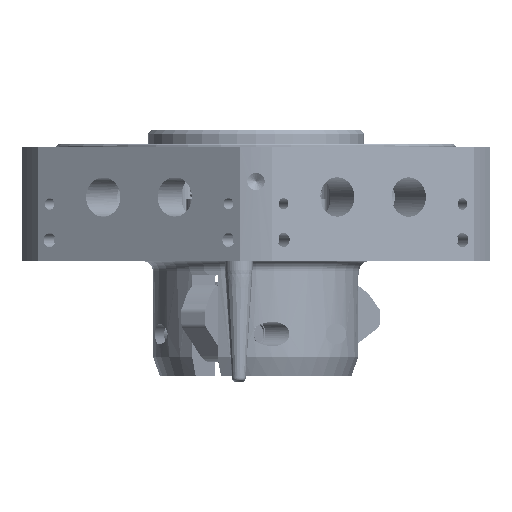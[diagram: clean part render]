
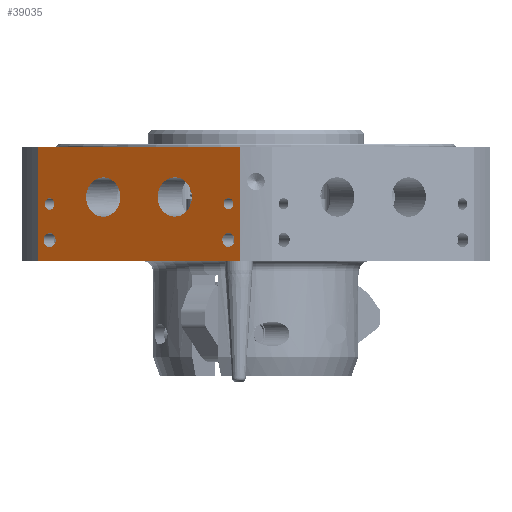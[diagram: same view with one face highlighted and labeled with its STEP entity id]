
A CAD part, top view. The second image highlights one B-rep face of the part: STEP entity #39035.
In plain terms, the highlighted planar face has unit normal (-0.5, 0, 0.866).
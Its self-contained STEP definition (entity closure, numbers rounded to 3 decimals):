
#335 = EDGE_LOOP ( 'NONE', ( #1082 ) ) ;
#589 = CARTESIAN_POINT ( 'NONE',  ( -59.981, 16.5, 43.89 ) ) ;
#986 = EDGE_CURVE ( 'NONE', #29392, #5384, #41622, .T. ) ;
#1082 = ORIENTED_EDGE ( 'NONE', *, *, #51510, .F. ) ;
#1117 = ORIENTED_EDGE ( 'NONE', *, *, #986, .T. ) ;
#1144 = FACE_BOUND ( 'NONE', #41600, .T. ) ;
#1641 = ORIENTED_EDGE ( 'NONE', *, *, #17149, .F. ) ;
#1983 = CARTESIAN_POINT ( 'NONE',  ( -6.26, 6., 74.905 ) ) ;
#2300 = AXIS2_PLACEMENT_3D ( 'NONE', #589, #16958, #33367 ) ;
#2595 = CARTESIAN_POINT ( 'NONE',  ( -58.222, 6., 44.905 ) ) ;
#2855 = EDGE_CURVE ( 'NONE', #5384, #31453, #30086, .T. ) ;
#3096 = CARTESIAN_POINT ( 'NONE',  ( -58.552, 16.5, 44.715 ) ) ;
#3681 = DIRECTION ( 'NONE',  ( -0.5, 0., 0.866 ) ) ;
#3937 = AXIS2_PLACEMENT_3D ( 'NONE', #27132, #43527, #6738 ) ;
#4257 = CARTESIAN_POINT ( 'NONE',  ( -4.606, 33., 75.86 ) ) ;
#4647 = LINE ( 'NONE', #21015, #37635 ) ;
#4818 = CARTESIAN_POINT ( 'NONE',  ( -63.394, 33., 41.919 ) ) ;
#4908 = CARTESIAN_POINT ( 'NONE',  ( -63.394, 0., 41.919 ) ) ;
#5384 = VERTEX_POINT ( 'NONE', #4908 ) ;
#5461 = ORIENTED_EDGE ( 'NONE', *, *, #14284, .F. ) ;
#6099 = VERTEX_POINT ( 'NONE', #22464 ) ;
#6738 = DIRECTION ( 'NONE',  ( 0.866, 0., 0.5 ) ) ;
#7305 = ORIENTED_EDGE ( 'NONE', *, *, #15519, .F. ) ;
#7329 = DIRECTION ( 'NONE',  ( -0.5, 0., 0.866 ) ) ;
#7390 = CARTESIAN_POINT ( 'NONE',  ( -18.652, 18.5, 67.751 ) ) ;
#9505 = CARTESIAN_POINT ( 'NONE',  ( -4.606, 33., 75.86 ) ) ;
#9675 = DIRECTION ( 'NONE',  ( 0.866, 0., 0.5 ) ) ;
#10309 = CARTESIAN_POINT ( 'NONE',  ( -4.606, 0., 75.86 ) ) ;
#10938 = CIRCLE ( 'NONE', #40965, 2.031 ) ;
#11085 = AXIS2_PLACEMENT_3D ( 'NONE', #53015, #16148, #32562 ) ;
#13237 = EDGE_LOOP ( 'NONE', ( #18002 ) ) ;
#13275 = CARTESIAN_POINT ( 'NONE',  ( -6.59, 16.5, 74.715 ) ) ;
#13504 = VECTOR ( 'NONE', #21198, 1000. ) ;
#13510 = FACE_BOUND ( 'NONE', #335, .T. ) ;
#13887 = EDGE_CURVE ( 'NONE', #20613, #31453, #4647, .T. ) ;
#14284 = EDGE_CURVE ( 'NONE', #6099, #6099, #34238, .T. ) ;
#15202 = CARTESIAN_POINT ( 'NONE',  ( -63.394, 33., 41.919 ) ) ;
#15519 = EDGE_CURVE ( 'NONE', #39392, #39392, #50305, .T. ) ;
#16148 = DIRECTION ( 'NONE',  ( -0.5, 0., 0.866 ) ) ;
#16682 = EDGE_CURVE ( 'NONE', #39901, #39901, #25470, .T. ) ;
#16827 = CARTESIAN_POINT ( 'NONE',  ( -23.608, 18.5, 64.89 ) ) ;
#16958 = DIRECTION ( 'NONE',  ( -0.5, 0., 0.866 ) ) ;
#17149 = EDGE_CURVE ( 'NONE', #44209, #44209, #35764, .T. ) ;
#17517 = FACE_BOUND ( 'NONE', #29502, .T. ) ;
#18002 = ORIENTED_EDGE ( 'NONE', *, *, #49817, .F. ) ;
#18668 = CIRCLE ( 'NONE', #48740, 1.65 ) ;
#19454 = AXIS2_PLACEMENT_3D ( 'NONE', #16827, #33230, #49662 ) ;
#20049 = DIRECTION ( 'NONE',  ( 0.866, 0., 0.5 ) ) ;
#20613 = VERTEX_POINT ( 'NONE', #47586 ) ;
#20628 = DIRECTION ( 'NONE',  ( 0.866, 0., 0.5 ) ) ;
#21015 = CARTESIAN_POINT ( 'NONE',  ( -4.606, 33., 75.86 ) ) ;
#21198 = DIRECTION ( 'NONE',  ( 0., -1., 0. ) ) ;
#22464 = CARTESIAN_POINT ( 'NONE',  ( -39.436, 18.5, 55.751 ) ) ;
#22651 = AXIS2_PLACEMENT_3D ( 'NONE', #9505, #25876, #42255 ) ;
#23714 = DIRECTION ( 'NONE',  ( 0.866, 0., 0.5 ) ) ;
#25470 = CIRCLE ( 'NONE', #2300, 1.65 ) ;
#25876 = DIRECTION ( 'NONE',  ( 0.5, 0., -0.866 ) ) ;
#27132 = CARTESIAN_POINT ( 'NONE',  ( -59.981, 6., 43.89 ) ) ;
#29392 = VERTEX_POINT ( 'NONE', #15202 ) ;
#29502 = EDGE_LOOP ( 'NONE', ( #33026 ) ) ;
#29895 = FACE_OUTER_BOUND ( 'NONE', #38093, .T. ) ;
#30086 = LINE ( 'NONE', #46496, #52261 ) ;
#30757 = VECTOR ( 'NONE', #20628, 1000. ) ;
#31304 = ORIENTED_EDGE ( 'NONE', *, *, #52897, .F. ) ;
#31453 = VERTEX_POINT ( 'NONE', #10309 ) ;
#32562 = DIRECTION ( 'NONE',  ( 0.866, 0., 0.5 ) ) ;
#33026 = ORIENTED_EDGE ( 'NONE', *, *, #16682, .F. ) ;
#33230 = DIRECTION ( 'NONE',  ( -0.5, 0., 0.866 ) ) ;
#33367 = DIRECTION ( 'NONE',  ( 0.866, 0., 0.5 ) ) ;
#33917 = FACE_BOUND ( 'NONE', #13237, .T. ) ;
#34238 = CIRCLE ( 'NONE', #11085, 5.723 ) ;
#35764 = CIRCLE ( 'NONE', #19454, 5.722 ) ;
#37408 = DIRECTION ( 'NONE',  ( 0., -1., 0. ) ) ;
#37635 = VECTOR ( 'NONE', #37408, 1000. ) ;
#37953 = FACE_BOUND ( 'NONE', #41264, .T. ) ;
#38093 = EDGE_LOOP ( 'NONE', ( #47078, #41464, #31304, #1117 ) ) ;
#38800 = VERTEX_POINT ( 'NONE', #1983 ) ;
#39035 = ADVANCED_FACE ( 'NONE', ( #37953, #1144, #17517, #33917, #50350, #13510, #29895 ), #46322, .F. ) ;
#39392 = VERTEX_POINT ( 'NONE', #2595 ) ;
#39901 = VERTEX_POINT ( 'NONE', #3096 ) ;
#40507 = CARTESIAN_POINT ( 'NONE',  ( -8.019, 16.5, 73.89 ) ) ;
#40965 = AXIS2_PLACEMENT_3D ( 'NONE', #44146, #7329, #23714 ) ;
#41063 = LINE ( 'NONE', #4257, #30757 ) ;
#41264 = EDGE_LOOP ( 'NONE', ( #5461 ) ) ;
#41464 = ORIENTED_EDGE ( 'NONE', *, *, #13887, .F. ) ;
#41600 = EDGE_LOOP ( 'NONE', ( #1641 ) ) ;
#41622 = LINE ( 'NONE', #4818, #13504 ) ;
#42255 = DIRECTION ( 'NONE',  ( -0.866, 0., -0.5 ) ) ;
#43527 = DIRECTION ( 'NONE',  ( -0.5, 0., 0.866 ) ) ;
#44146 = CARTESIAN_POINT ( 'NONE',  ( -8.019, 6., 73.89 ) ) ;
#44209 = VERTEX_POINT ( 'NONE', #7390 ) ;
#46322 = PLANE ( 'NONE',  #22651 ) ;
#46496 = CARTESIAN_POINT ( 'NONE',  ( -4.606, 0., 75.86 ) ) ;
#47078 = ORIENTED_EDGE ( 'NONE', *, *, #2855, .T. ) ;
#47586 = CARTESIAN_POINT ( 'NONE',  ( -4.606, 33., 75.86 ) ) ;
#48740 = AXIS2_PLACEMENT_3D ( 'NONE', #40507, #3681, #20049 ) ;
#49662 = DIRECTION ( 'NONE',  ( 0.866, 0., 0.5 ) ) ;
#49817 = EDGE_CURVE ( 'NONE', #50131, #50131, #18668, .T. ) ;
#50131 = VERTEX_POINT ( 'NONE', #13275 ) ;
#50305 = CIRCLE ( 'NONE', #3937, 2.031 ) ;
#50350 = FACE_BOUND ( 'NONE', #52356, .T. ) ;
#51510 = EDGE_CURVE ( 'NONE', #38800, #38800, #10938, .T. ) ;
#52261 = VECTOR ( 'NONE', #9675, 1000. ) ;
#52356 = EDGE_LOOP ( 'NONE', ( #7305 ) ) ;
#52897 = EDGE_CURVE ( 'NONE', #29392, #20613, #41063, .T. ) ;
#53015 = CARTESIAN_POINT ( 'NONE',  ( -44.392, 18.5, 52.89 ) ) ;
